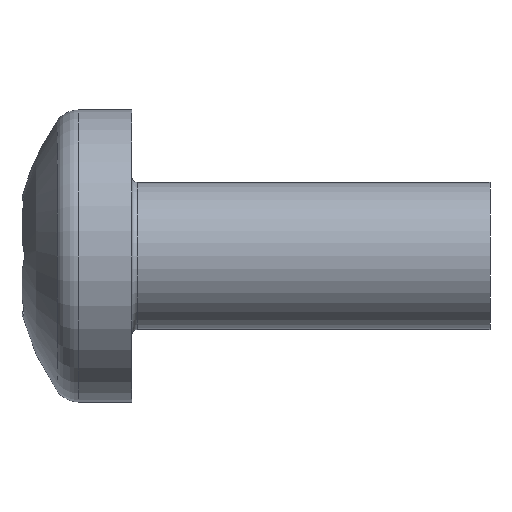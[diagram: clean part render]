
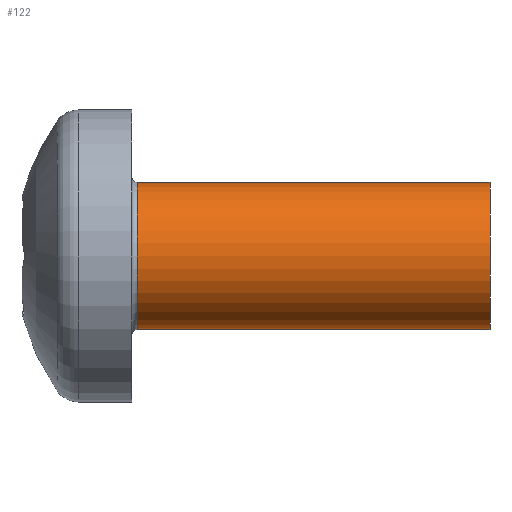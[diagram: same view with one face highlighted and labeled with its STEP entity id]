
A CAD part, front view. The second image highlights one B-rep face of the part: STEP entity #122.
In plain terms, the highlighted cylindrical face has radius 2.67 mm (diameter 5.34 mm), a full revolution.
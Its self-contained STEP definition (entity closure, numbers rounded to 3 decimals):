
#122=ADVANCED_FACE('',(#516,#518),#520,.T.);
#516=FACE_OUTER_BOUND('',#517,.T.);
#517=EDGE_LOOP('',(#1183));
#518=FACE_OUTER_BOUND('',#519,.T.);
#519=EDGE_LOOP('',(#1184));
#520=CYLINDRICAL_SURFACE('',#521,2.67);
#521=AXIS2_PLACEMENT_3D('',#522,#523,#524);
#522=CARTESIAN_POINT('',(12.02,-0.015,0.02));
#523=DIRECTION('',(1.,0.,0.));
#524=DIRECTION('',(0.,0.,1.));
#1183=ORIENTED_EDGE('',*,*,#1386,.F.);
#1184=ORIENTED_EDGE('',*,*,#1389,.T.);
#1386=EDGE_CURVE('',#1489,#1489,#1490,.T.);
#1389=EDGE_CURVE('',#1495,#1495,#1496,.T.);
#1489=VERTEX_POINT('',#1659);
#1490=CIRCLE('',#1660,2.67);
#1495=VERTEX_POINT('',#1674);
#1496=CIRCLE('',#1675,2.67);
#1659=CARTESIAN_POINT('',(13.02,-0.015,2.69));
#1660=AXIS2_PLACEMENT_3D('',#1661,#1662,#1663);
#1661=CARTESIAN_POINT('',(13.02,-0.015,0.02));
#1662=DIRECTION('',(1.,0.,0.));
#1663=DIRECTION('',(0.,0.,1.));
#1674=CARTESIAN_POINT('',(0.22,-0.015,2.69));
#1675=AXIS2_PLACEMENT_3D('',#1676,#1677,#1678);
#1676=CARTESIAN_POINT('',(0.22,-0.015,0.02));
#1677=DIRECTION('',(1.,0.,0.));
#1678=DIRECTION('',(0.,0.,1.));
